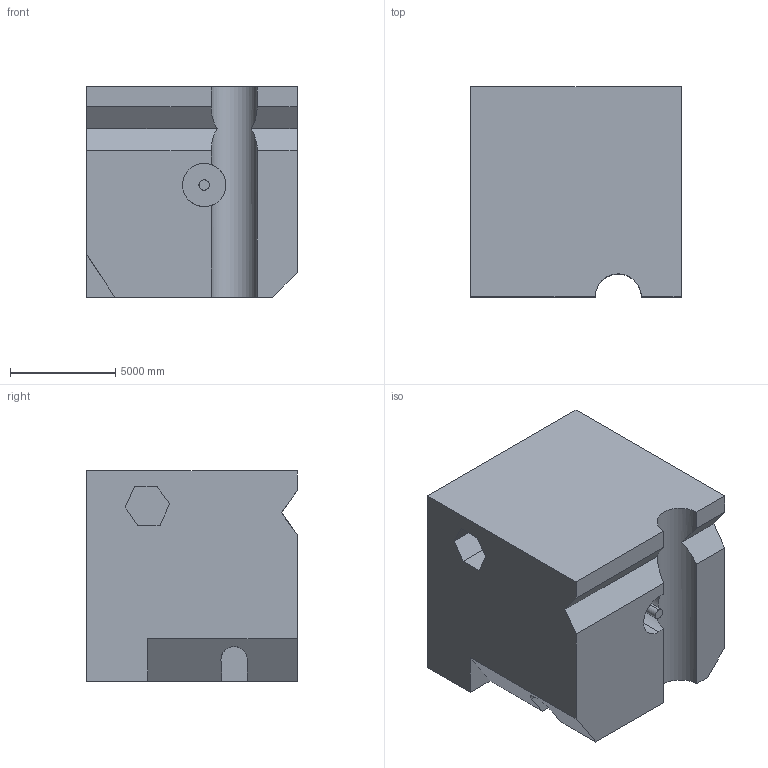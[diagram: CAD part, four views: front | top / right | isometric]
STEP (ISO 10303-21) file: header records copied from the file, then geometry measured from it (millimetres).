
FILE_DESCRIPTION (( 'STEP AP203' ), '1' );
FILE_NAME ('926.STEP', '2022-08-04T16:16:01', ( 'user' ), ( '' ), 'SwSTEP 2.0', 'SolidWorks 2021', '' );
FILE_SCHEMA (( 'CONFIG_CONTROL_DESIGN' ));
Length unit declared in the file: centimetre
Products named in the file (1): 926
Bounding box: 10000 x 10000 x 10000 mm (x, y, z)
Volume: 898289484878.4 mm3; surface area: 734913395 mm2
Topology: 1 solids, 1 shells, 53 faces, 147 edges, 98 vertices
Faces by surface type: plane 44, cylinder 9
Entity records: 2079 total; most frequent: CARTESIAN_POINT 694, ORIENTED_EDGE 294, DIRECTION 244, EDGE_CURVE 147, VECTOR 102, LINE 102, VERTEX_POINT 98, AXIS2_PLACEMENT_3D 71
